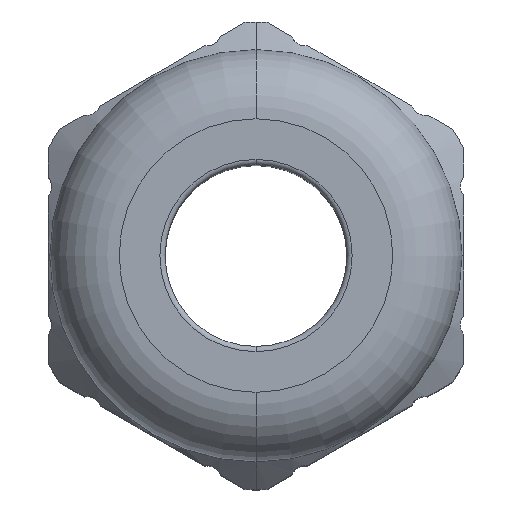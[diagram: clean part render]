
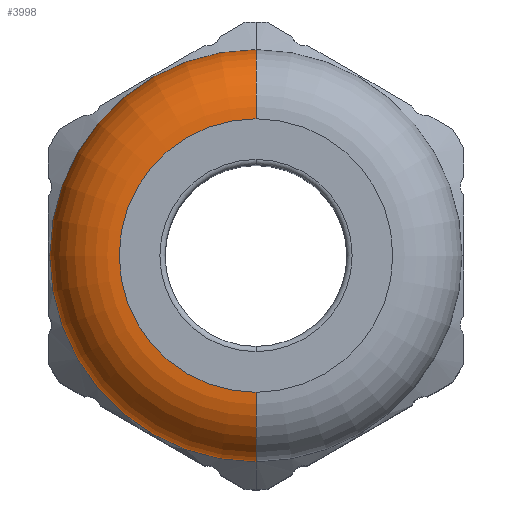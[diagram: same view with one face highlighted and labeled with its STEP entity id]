
A CAD part, top view. The second image highlights one B-rep face of the part: STEP entity #3998.
In plain terms, the highlighted toroidal (fillet/blend) face has major radius 7.9 mm and minor radius 4 mm.
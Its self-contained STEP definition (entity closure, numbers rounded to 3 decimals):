
#2363 = DIRECTION ( 'NONE',  ( 0., 1., 0. ) ) ;
#2364 = DIRECTION ( 'NONE',  ( 0., 0., -1. ) ) ;
#2365 = CARTESIAN_POINT ( 'NONE',  ( 0., 0., 33. ) ) ;
#2366 = AXIS2_PLACEMENT_3D ( 'NONE', #2365, #2364, #2363 ) ;
#2367 = CIRCLE ( 'NONE', #2366, 7.9 ) ;
#2396 = DIRECTION ( 'NONE',  ( 0., 1., 0. ) ) ;
#2397 = DIRECTION ( 'NONE',  ( 0., 0., -1. ) ) ;
#2398 = CARTESIAN_POINT ( 'NONE',  ( 0., 0., 29. ) ) ;
#2399 = AXIS2_PLACEMENT_3D ( 'NONE', #2398, #2397, #2396 ) ;
#2401 = TOROIDAL_SURFACE ( 'NONE', #2399, 7.9, 4. ) ;
#2402 = FACE_OUTER_BOUND ( 'NONE', #3999, .T. ) ;
#2403 = DIRECTION ( 'NONE',  ( 0., 1., 0. ) ) ;
#2404 = DIRECTION ( 'NONE',  ( 0., 0., -1. ) ) ;
#2405 = AXIS2_PLACEMENT_3D ( 'NONE', #2411, #2404, #2403 ) ;
#2406 = CIRCLE ( 'NONE', #2405, 11.9 ) ;
#2411 = CARTESIAN_POINT ( 'NONE',  ( 0., 0., 29. ) ) ;
#3125 = DIRECTION ( 'NONE',  ( 0., 0., 1. ) ) ;
#3126 = DIRECTION ( 'NONE',  ( -1., 0., 0. ) ) ;
#3127 = CARTESIAN_POINT ( 'NONE',  ( 0., 7.9, 29. ) ) ;
#3128 = AXIS2_PLACEMENT_3D ( 'NONE', #3127, #3126, #3125 ) ;
#3129 = CIRCLE ( 'NONE', #3128, 4. ) ;
#3130 = CARTESIAN_POINT ( 'NONE',  ( 0., 11.9, 29. ) ) ;
#3885 = CARTESIAN_POINT ( 'NONE',  ( 0., -11.9, 29. ) ) ;
#3886 = DIRECTION ( 'NONE',  ( 0., 1., 0. ) ) ;
#3887 = DIRECTION ( 'NONE',  ( 1., 0., 0. ) ) ;
#3888 = CARTESIAN_POINT ( 'NONE',  ( 0., -7.9, 29. ) ) ;
#3889 = AXIS2_PLACEMENT_3D ( 'NONE', #3888, #3887, #3886 ) ;
#3890 = CIRCLE ( 'NONE', #3889, 4. ) ;
#3891 = CARTESIAN_POINT ( 'NONE',  ( 0., -7.9, 33. ) ) ;
#3892 = CARTESIAN_POINT ( 'NONE',  ( 0., 7.9, 33. ) ) ;
#3995 = EDGE_CURVE ( 'NONE', #4683, #4428, #2406, .T. ) ;
#3998 = ADVANCED_FACE ( 'NONE', ( #2402 ), #2401, .T. ) ;
#3999 = EDGE_LOOP ( 'NONE', ( #4000, #4001, #4013, #4014 ) ) ;
#4000 = ORIENTED_EDGE ( 'NONE', *, *, #4682, .F. ) ;
#4001 = ORIENTED_EDGE ( 'NONE', *, *, #4012, .T. ) ;
#4012 = EDGE_CURVE ( 'NONE', #4680, #4679, #2367, .T. ) ;
#4013 = ORIENTED_EDGE ( 'NONE', *, *, #4430, .T. ) ;
#4014 = ORIENTED_EDGE ( 'NONE', *, *, #3995, .F. ) ;
#4428 = VERTEX_POINT ( 'NONE', #3130 ) ;
#4430 = EDGE_CURVE ( 'NONE', #4679, #4428, #3129, .T. ) ;
#4679 = VERTEX_POINT ( 'NONE', #3892 ) ;
#4680 = VERTEX_POINT ( 'NONE', #3891 ) ;
#4682 = EDGE_CURVE ( 'NONE', #4680, #4683, #3890, .T. ) ;
#4683 = VERTEX_POINT ( 'NONE', #3885 ) ;
